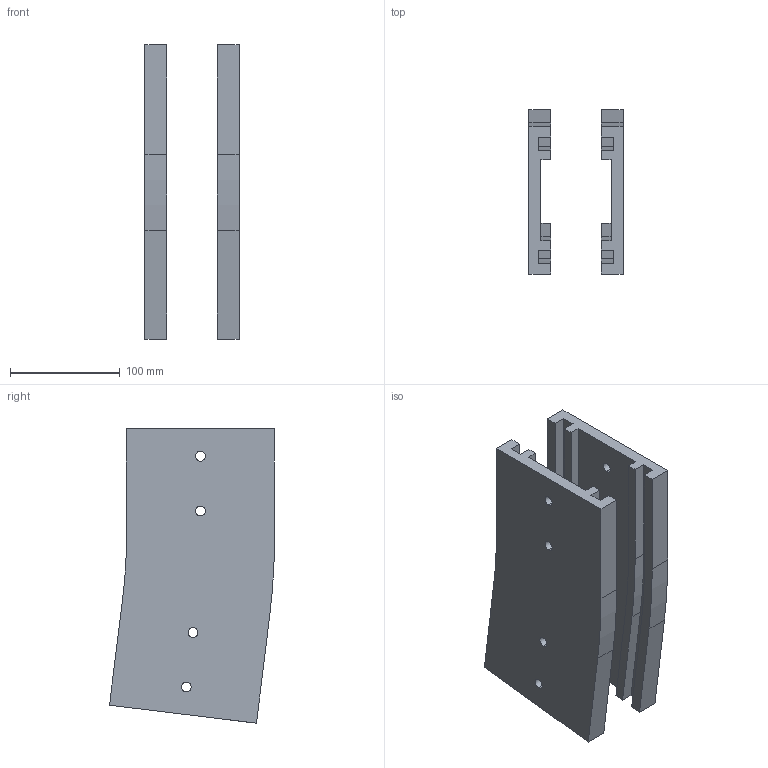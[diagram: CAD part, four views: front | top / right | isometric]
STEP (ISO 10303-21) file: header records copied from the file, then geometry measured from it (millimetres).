
FILE_DESCRIPTION (( 'STEP AP203' ), '1' );
FILE_NAME ('R2CV500-7.STEP', '2008-12-02T09:18:36', ( 'faber' ), ( '' ), 'SwSTEP 2.0', 'SolidWorks 2008', '' );
FILE_SCHEMA (( 'CONFIG_CONTROL_DESIGN' ));
Length unit declared in the file: millimetre
Products named in the file (1): R2CV500-7
Bounding box: 86 x 150.41 x 268.42 mm (x, y, z)
Volume: 918648 mm3; surface area: 202798.6 mm2
Topology: 2 solids, 2 shells, 84 faces, 240 edges, 160 vertices
Faces by surface type: plane 52, cylinder 32
Entity records: 2855 total; most frequent: CARTESIAN_POINT 485, ORIENTED_EDGE 480, DIRECTION 474, EDGE_CURVE 240, LINE 176, VECTOR 176, VERTEX_POINT 160, AXIS2_PLACEMENT_3D 149
